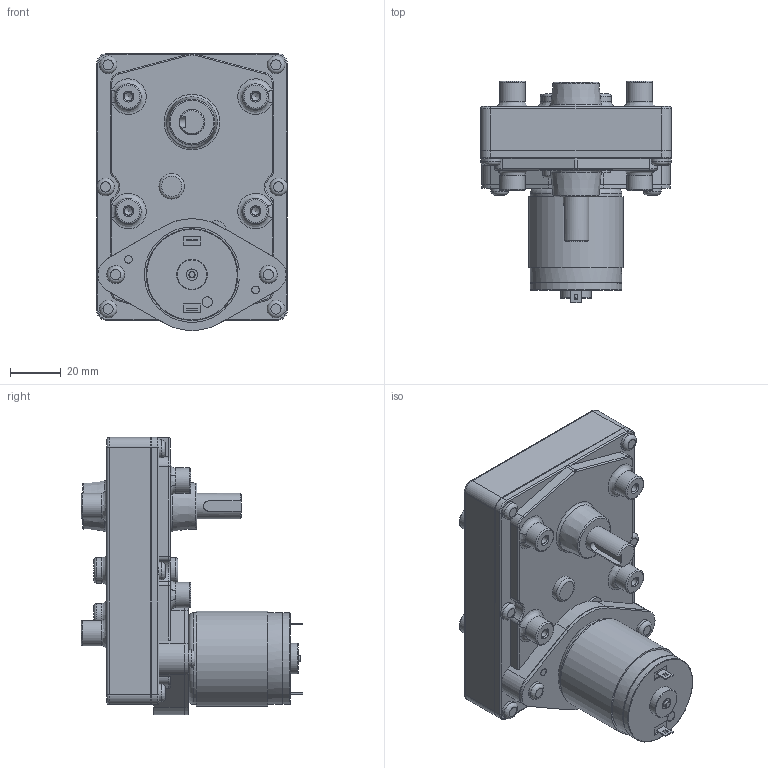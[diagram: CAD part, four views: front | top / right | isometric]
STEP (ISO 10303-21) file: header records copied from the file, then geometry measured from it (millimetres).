
FILE_DESCRIPTION((''),'2;1');
FILE_NAME('C:\Documents and Settings\SSEGAWA\デスクトップ\TP-3640B-LG.STP','2013-07-18T17:52:27',('SSEGAWA'),(''),'Autodesk Inventor 2010','Autodesk Inventor 2010','');
FILE_SCHEMA(('CONFIG_CONTROL_DESIGN'));
Length unit declared in the file: millimetre
Products named in the file (1): tp_3640bce_lg_Shrinkwrap_1
Bounding box: 75 x 87.1 x 109 mm (x, y, z)
Volume: 262305.3 mm3; surface area: 36618.8 mm2
Topology: 1 solids, 4 shells, 304 faces, 701 edges, 438 vertices
Faces by surface type: plane 112, cylinder 84, bspline 54, torus 40, cone 14
Full cylindrical faces by diameter (mm): 2.5 x1, 3 x2, 4 x1, 4.5 x1, 7 x4, 9 x2, 9.3 x1, 10 x11, 12 x1, 15 x1, 35.6 x1, 36 x2
Entity records: 9272 total; most frequent: CARTESIAN_POINT 2639, DIRECTION 1343, ORIENTED_EDGE 1140, EDGE_CURVE 570, AXIS2_PLACEMENT_3D 538, EDGE_LOOP 443, VERTEX_POINT 407, STYLED_ITEM 305
